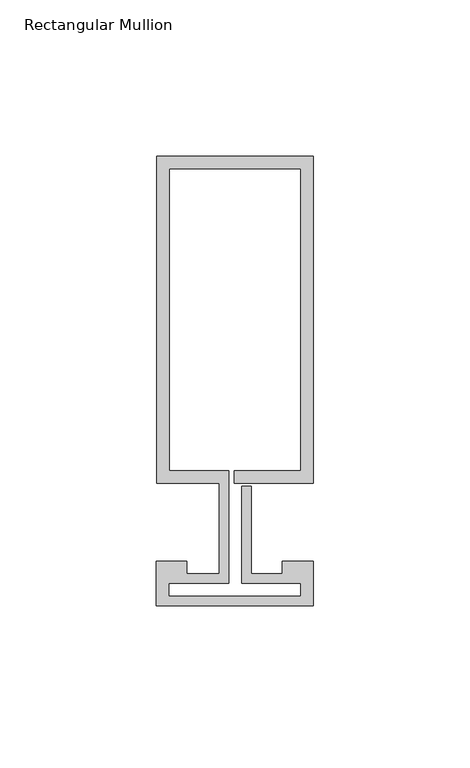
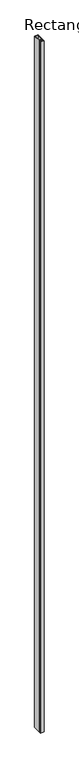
"""IFC4 building model written with IfcOpenShell, lengths in millimetres: member geometry, Rectangular Mullion : Reynaers_CW-50_Mullion-Transom_Vertical_104.5mm_Facecap-02A."""

from ifc_helpers import new_model, si_unit, frame, origin, place, context, project, spatial, polyline, outline, extrude, source, transform, mapped, element, save


def rectangular_mullion_cf6c6dc6(model_context):
    return source(origin(), model_context, "Body", "SweptSolid", [
        extrude(outline(polyline([(-24.8004059, 117.0), (25.1995941, 117.0), (25.1995941, 12.5), (0.0, 12.5), (0.0, 16.5), (21.1995941, 16.5), (21.1995941, 113.0), (-20.8004059, 113.0), (-20.8004059, 16.5), (-1.9004059, 16.5), (-1.9004059, -19.5), (-20.994845, -19.5), (-20.994845, -23.7191338), (21.1995941, -23.7191338), (21.1995941, -19.5), (2.2995941, -19.5), (2.2995941, 11.5), (5.2995941, 11.5), (5.2995941, -16.5), (15.2996495, -16.5), (15.2996495, -12.5), (25.1995941, -12.5), (25.1995941, -26.8), (-24.994845, -26.8), (-24.994845, -12.5), (-15.2996495, -12.5), (-15.2996495, -16.5), (-4.9004059, -16.5), (-4.9004059, 12.5), (-24.8004059, 12.5), (-24.8004059, 117.0)])), frame((0.0, 0.0, -10400.0), z_axis=(0.0, 0.0, 1.0), x_axis=(1.0, 0.0, 0.0)), (0.0, 0.0, 1.0), 10400.0),
    ])


if __name__ == "__main__":
    model = new_model("IFC4")
    model_context = context("Model", 3, world=origin())
    ifc_project = project(units=[si_unit("LENGTHUNIT", "METRE", prefix="MILLI")], contexts=[model_context])
    site = spatial("IfcSite", under=ifc_project)
    building = spatial("IfcBuilding", under=site)
    placement = place(None, origin())
    rectangular_mullion_shape = rectangular_mullion_cf6c6dc6(model_context)
    element("IfcMember", 1, ObjectType="Rectangular Mullion : Reynaers_CW-50_Mullion-Transom_Vertical_104.5mm_Facecap-02A", at=placement, inside=building, context=model_context, shape_type="MappedRepresentation", body=[
        mapped(rectangular_mullion_shape, transform((0.0, 0.0, 0.0), x_axis=(1.0, 0.0, 0.0), y_axis=(0.0, 1.0, 0.0), z_axis=(0.0, 0.0, 1.0))),
    ])
    save(model, "model.ifc")
